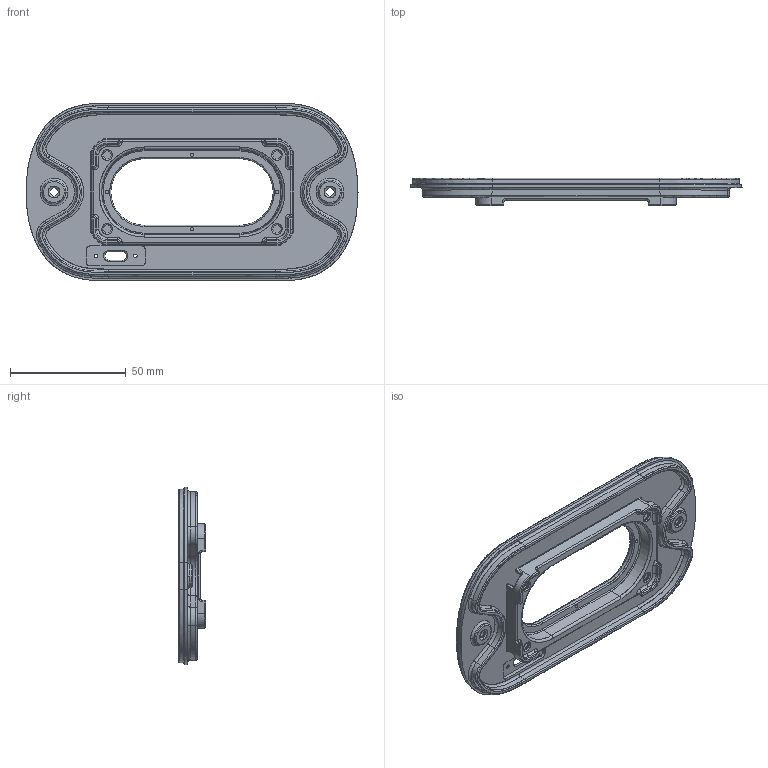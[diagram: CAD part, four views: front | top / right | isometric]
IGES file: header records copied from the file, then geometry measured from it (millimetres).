
Start section: Speaker 2 inch..SLDPRT - PrototypeComponentType Speaker 2 inch..SLDPRT - PrototypeComponentType Speaker 2 inch..SLDPRT - PrototypeComponentType Speaker 2 inch..SLDPRT - PrototypeComponentType 10 rocker-switch-KCD1..SLDPRT - PrototypeComponentType 10 rocker-switch-KCD1..SLDPRT - PrototypeComponentType 10 rocker-switch-KCD1..SLDPRT - PrototypeComponentType 10 rocker-switch-KCD1..SLDPRT - PrototypeCo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
Global section: file name: C:\Users\Victor\Desktop\BackNuevo.igs; native system: Rhinoceros ( Feb 27 2019 ); preprocessor: Trout Lake IGES 012 Feb 27 2019; date: 241028.191554; units: millimetre
Bounding box: 143.51 x 11.74 x 76.75 mm (x, y, z)
Surface area: 24855.1 mm2 (no closed solid volume)
Topology: 0 solids, 0 shells, 580 faces, 4522 edges, 4522 vertices
Faces by surface type: bspline 580
